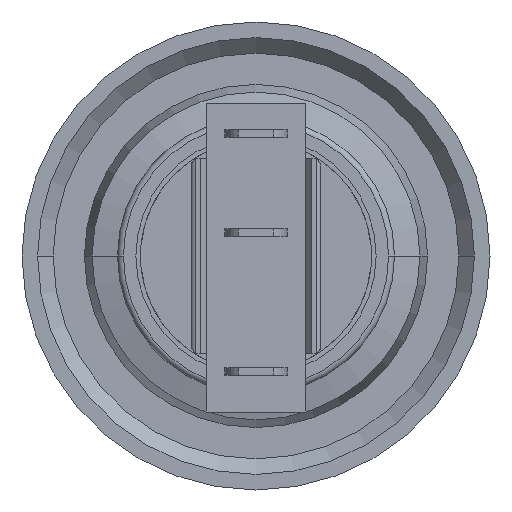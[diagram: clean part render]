
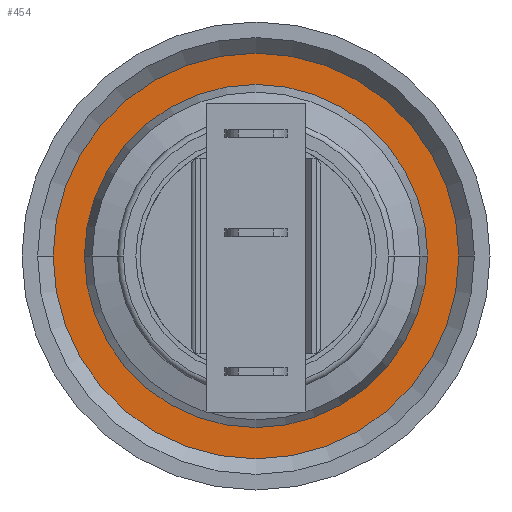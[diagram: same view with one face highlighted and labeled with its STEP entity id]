
A CAD part, front view. The second image highlights one B-rep face of the part: STEP entity #454.
In plain terms, the highlighted planar face has unit normal (0, -1, 0).
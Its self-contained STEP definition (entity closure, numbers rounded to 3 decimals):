
#93=CARTESIAN_POINT('',(0.,11.1,0.));
#94=DIRECTION('',(0.,1.,0.));
#95=DIRECTION('',(-1.,0.,0.));
#96=AXIS2_PLACEMENT_3D('',#93,#94,#95);
#98=CARTESIAN_POINT('',(0.,11.1,0.));
#99=DIRECTION('',(0.,-1.,0.));
#100=DIRECTION('',(-1.,0.,0.));
#101=AXIS2_PLACEMENT_3D('',#98,#99,#100);
#111=CARTESIAN_POINT('',(0.,11.1,0.));
#112=DIRECTION('',(0.,-1.,0.));
#113=DIRECTION('',(-1.,0.,0.));
#114=AXIS2_PLACEMENT_3D('',#111,#112,#113);
#116=CARTESIAN_POINT('',(0.,11.1,0.));
#117=DIRECTION('',(0.,1.,0.));
#118=DIRECTION('',(-1.,0.,0.));
#119=AXIS2_PLACEMENT_3D('',#116,#117,#118);
#243=CARTESIAN_POINT('',(-13.,11.1,0.));
#244=VERTEX_POINT('',#243);
#245=CARTESIAN_POINT('',(-11.,11.1,0.));
#247=VERTEX_POINT('',#245);
#263=CARTESIAN_POINT('',(13.,11.1,0.));
#264=VERTEX_POINT('',#263);
#265=CARTESIAN_POINT('',(11.,11.1,0.));
#267=VERTEX_POINT('',#265);
#439=CARTESIAN_POINT('',(0.,11.1,0.));
#440=DIRECTION('',(0.,1.,0.));
#441=DIRECTION('',(1.,0.,0.));
#442=AXIS2_PLACEMENT_3D('',#439,#440,#441);
#443=PLANE('',#442);
#444=ORIENTED_EDGE('',*,*,#421,.T.);
#445=ORIENTED_EDGE('',*,*,#432,.F.);
#446=EDGE_LOOP('',(#444,#445));
#447=FACE_OUTER_BOUND('',#446,.F.);
#449=ORIENTED_EDGE('',*,*,#448,.T.);
#451=ORIENTED_EDGE('',*,*,#450,.F.);
#452=EDGE_LOOP('',(#449,#451));
#453=FACE_BOUND('',#452,.F.);
#97=CIRCLE('',#96,13.);
#102=CIRCLE('',#101,13.);
#115=CIRCLE('',#114,11.);
#120=CIRCLE('',#119,11.);
#421=EDGE_CURVE('',#244,#264,#97,.T.);
#432=EDGE_CURVE('',#244,#264,#102,.T.);
#448=EDGE_CURVE('',#247,#267,#115,.T.);
#450=EDGE_CURVE('',#247,#267,#120,.T.);
#454=ADVANCED_FACE('',(#447,#453),#443,.F.);
